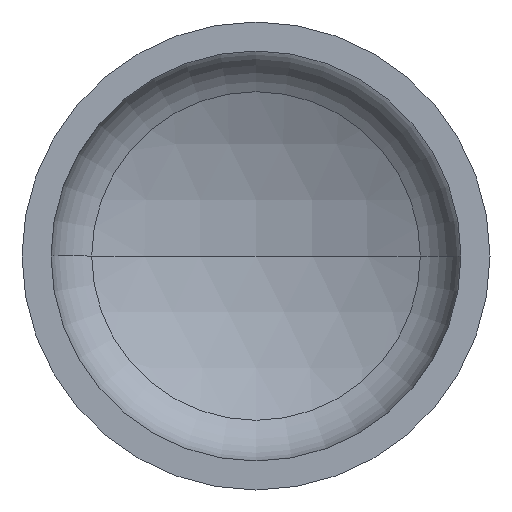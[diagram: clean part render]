
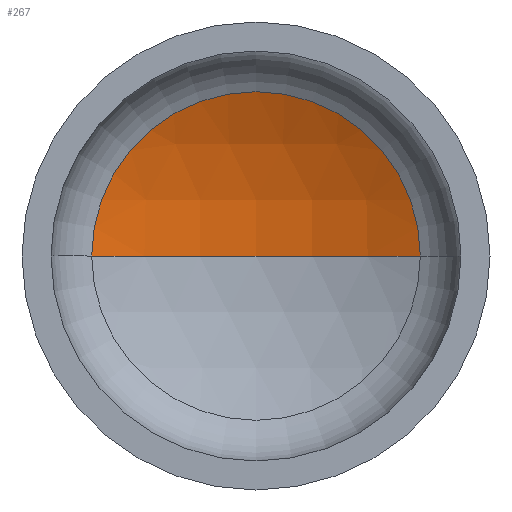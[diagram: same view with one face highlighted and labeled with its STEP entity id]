
A CAD part, front view. The second image highlights one B-rep face of the part: STEP entity #267.
In plain terms, the highlighted spherical face has radius 800 mm.
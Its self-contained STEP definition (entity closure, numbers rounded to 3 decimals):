
#4 = DIRECTION ( 'NONE',  ( 0., 0., -1. ) ) ;
#7 = AXIS2_PLACEMENT_3D ( 'NONE', #206, #22, #42 ) ;
#13 = AXIS2_PLACEMENT_3D ( 'NONE', #31, #182, #369 ) ;
#21 = AXIS2_PLACEMENT_3D ( 'NONE', #142, #139, #141 ) ;
#22 = DIRECTION ( 'NONE',  ( 0., -1., 0. ) ) ;
#31 = CARTESIAN_POINT ( 'NONE',  ( 0., -459.6, 0. ) ) ;
#42 = DIRECTION ( 'NONE',  ( 1., 0., 0. ) ) ;
#59 = AXIS2_PLACEMENT_3D ( 'NONE', #384, #4, #222 ) ;
#63 = EDGE_LOOP ( 'NONE', ( #336, #159, #357 ) ) ;
#68 = CARTESIAN_POINT ( 'NONE',  ( -351.008, 259.284, 0. ) ) ;
#101 = CIRCLE ( 'NONE', #7, 351.008 ) ;
#118 = VERTEX_POINT ( 'NONE', #302 ) ;
#119 = CIRCLE ( 'NONE', #13, 800. ) ;
#139 = DIRECTION ( 'NONE',  ( 0., 0., -1. ) ) ;
#141 = DIRECTION ( 'NONE',  ( -1., 0., 0. ) ) ;
#142 = CARTESIAN_POINT ( 'NONE',  ( 0., -459.6, 0. ) ) ;
#159 = ORIENTED_EDGE ( 'NONE', *, *, #354, .T. ) ;
#164 = VERTEX_POINT ( 'NONE', #207 ) ;
#182 = DIRECTION ( 'NONE',  ( 0., 0., 1. ) ) ;
#206 = CARTESIAN_POINT ( 'NONE',  ( 0., 259.284, 0. ) ) ;
#207 = CARTESIAN_POINT ( 'NONE',  ( 351.008, 259.284, 0. ) ) ;
#222 = DIRECTION ( 'NONE',  ( -1., 0., 0. ) ) ;
#240 = CIRCLE ( 'NONE', #21, 800. ) ;
#247 = SPHERICAL_SURFACE ( 'NONE', #59, 800. ) ;
#254 = FACE_OUTER_BOUND ( 'NONE', #63, .T. ) ;
#267 = ADVANCED_FACE ( 'NONE', ( #254 ), #247, .F. ) ;
#302 = CARTESIAN_POINT ( 'NONE',  ( 0., 340.4, 0. ) ) ;
#336 = ORIENTED_EDGE ( 'NONE', *, *, #361, .F. ) ;
#354 = EDGE_CURVE ( 'NONE', #118, #164, #240, .T. ) ;
#357 = ORIENTED_EDGE ( 'NONE', *, *, #366, .T. ) ;
#361 = EDGE_CURVE ( 'NONE', #118, #393, #119, .T. ) ;
#366 = EDGE_CURVE ( 'NONE', #164, #393, #101, .T. ) ;
#369 = DIRECTION ( 'NONE',  ( 1., 0., 0. ) ) ;
#384 = CARTESIAN_POINT ( 'NONE',  ( 0., -459.6, 0. ) ) ;
#393 = VERTEX_POINT ( 'NONE', #68 ) ;
